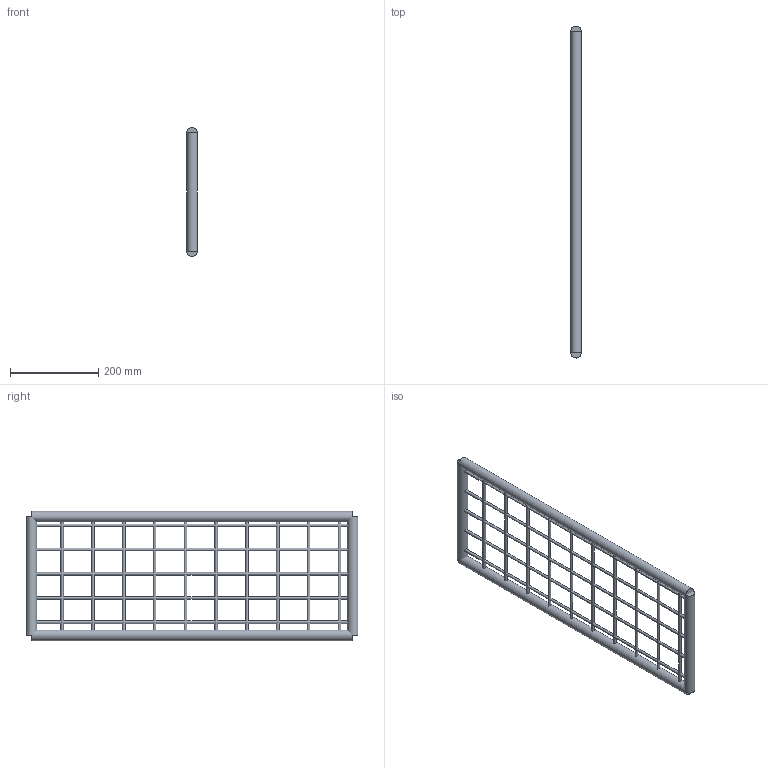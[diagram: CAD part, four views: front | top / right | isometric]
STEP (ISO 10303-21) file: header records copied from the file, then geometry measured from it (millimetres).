
FILE_DESCRIPTION(('Open CASCADE Model'),'2;1');
FILE_NAME('Open CASCADE Shape Model','2026-09-19T12:55:26',('Author'),( 'Open CASCADE'),'Open CASCADE STEP processor 7.9','Open CASCADE 7.9' ,'Unknown');
FILE_SCHEMA(('AUTOMOTIVE_DESIGN { 1 0 10303 214 1 1 1 1 }'));
Length unit declared in the file: millimetre
Products named in the file (20): Open CASCADE STEP translator 7.9 502; Open CASCADE STEP translator 7.9 502.1; Open CASCADE STEP translator 7.9 502.2; Open CASCADE STEP translator 7.9 502.3; Open CASCADE STEP translator 7.9 502.4; Open CASCADE STEP translator 7.9 502.5; Open CASCADE STEP translator 7.9 502.6; Open CASCADE STEP translator 7.9 502.7; Open CASCADE STEP translator 7.9 502.8; Open CASCADE STEP translator 7.9 502.9; Open CASCADE STEP translator 7.9 502.10; Open CASCADE STEP translator 7.9 502.11; Open CASCADE STEP translator 7.9 502.12; Open CASCADE STEP translator 7.9 502.13; Open CASCADE STEP translator 7.9 502.14; Open CASCADE STEP translator 7.9 502.15; Open CASCADE STEP translator 7.9 502.16; Open CASCADE STEP translator 7.9 502.17; Open CASCADE STEP translator 7.9 502.18; Open CASCADE STEP translator 7.9 502.19
Assembly tree (19 placements, depth 2):
  Open CASCADE STEP translator 7.9 502
    Open CASCADE STEP translator 7.9 502.1
    Open CASCADE STEP translator 7.9 502.2
    Open CASCADE STEP translator 7.9 502.3
    Open CASCADE STEP translator 7.9 502.4
    Open CASCADE STEP translator 7.9 502.5
    Open CASCADE STEP translator 7.9 502.6
    Open CASCADE STEP translator 7.9 502.7
    Open CASCADE STEP translator 7.9 502.8
    Open CASCADE STEP translator 7.9 502.9
    Open CASCADE STEP translator 7.9 502.10
    Open CASCADE STEP translator 7.9 502.11
    Open CASCADE STEP translator 7.9 502.12
    Open CASCADE STEP translator 7.9 502.13
    Open CASCADE STEP translator 7.9 502.14
    Open CASCADE STEP translator 7.9 502.15
    Open CASCADE STEP translator 7.9 502.16
    Open CASCADE STEP translator 7.9 502.17
    Open CASCADE STEP translator 7.9 502.18
    Open CASCADE STEP translator 7.9 502.19
Bounding box: 24 x 754 x 294 mm (x, y, z)
Volume: 1075838.4 mm3; surface area: 269303.6 mm2
Topology: 19 solids, 19 shells, 57 faces, 57 edges, 38 vertices
Faces by surface type: plane 38, cylinder 19
Full cylindrical faces by diameter (mm): 6 x15, 24 x4
Entity records: 2106 total; most frequent: DIRECTION 363, CARTESIAN_POINT 286, AXIS2_PLACEMENT_3D 115, ORIENTED_EDGE 114, PCURVE 114, DEFINITIONAL_REPRESENTATION 114, LINE 95, VECTOR 95
